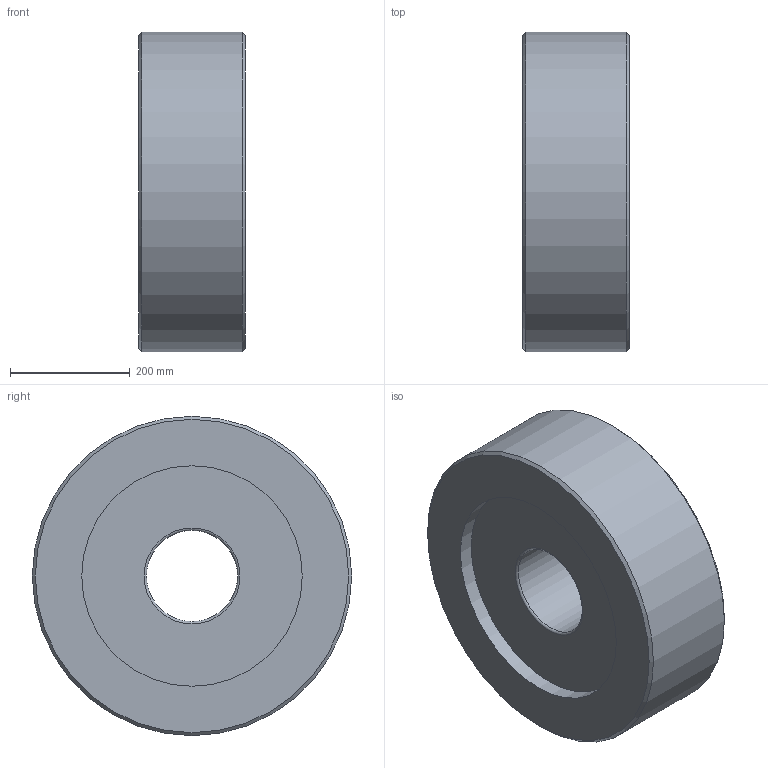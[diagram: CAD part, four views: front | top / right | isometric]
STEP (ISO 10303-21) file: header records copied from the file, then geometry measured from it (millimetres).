
FILE_DESCRIPTION((''),'1');
FILE_NAME('H:/図庫/国内ﾕﾆｯﾄ/ｶﾀﾛｸﾞ/樹脂巻き/ホームページ用ＣＡＤ図面/update用/3D/', '2017-07-13T04:52:10',(''), (''), 'KCM Version 1.1.1442.0', 'Kubotek KeyCreator', '');
FILE_SCHEMA(('AUTOMOTIVE_DESIGN'));
Length unit declared in the file: inch
Bounding box: 177.8 x 533.4 x 533.4 mm (x, y, z)
Surface area: 816366.7 mm2 (no closed solid volume)
Topology: 0 solids, 12 shells, 12 faces, 40 edges, 32 vertices
Faces by surface type: plane 4, cylinder 4, cone 2, torus 2
Full cylindrical faces by diameter (mm): 152.4 x1, 368.3 x2, 533.4 x1
Entity records: 476 total; most frequent: DIRECTION 92, CARTESIAN_POINT 81, ORIENTED_EDGE 48, AXIS2_PLACEMENT_3D 43, EDGE_CURVE 40, VERTEX_POINT 32, CIRCLE 30, EDGE_LOOP 16
